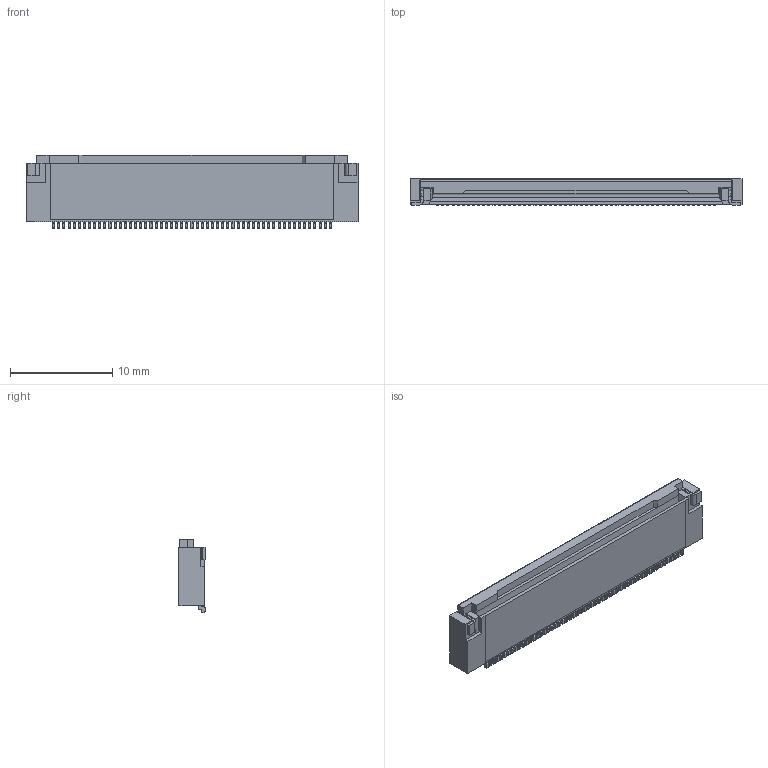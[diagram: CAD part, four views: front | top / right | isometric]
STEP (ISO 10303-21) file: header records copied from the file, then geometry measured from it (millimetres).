
FILE_DESCRIPTION (( 'STEP AP203' ), '1' );
FILE_NAME ('20647-055E-01 ASS''Y ACT CLOSE STEP R2 ALL.STEP', '2016-10-03T14:37:09', ( '' ), ( '' ), 'SwSTEP 2.0', 'SolidWorks 2014', '' );
FILE_SCHEMA (( 'CONFIG_CONTROL_DESIGN' ));
Length unit declared in the file: millimetre
Products named in the file (1): 20647-055E-01 ASS''Y ACT CLOSE STEP R2 ALL
Bounding box: 32.4 x 2.55 x 7.2 mm (x, y, z)
Volume: 443.7 mm3; surface area: 814.4 mm2
Topology: 1 solids, 1 shells, 1483 faces, 4213 edges, 2788 vertices
Faces by surface type: plane 920, cylinder 507, cone 56
Entity records: 48200 total; most frequent: CARTESIAN_POINT 9145, ORIENTED_EDGE 8426, DIRECTION 7977, EDGE_CURVE 4213, VECTOR 2977, LINE 2977, VERTEX_POINT 2788, AXIS2_PLACEMENT_3D 2500
